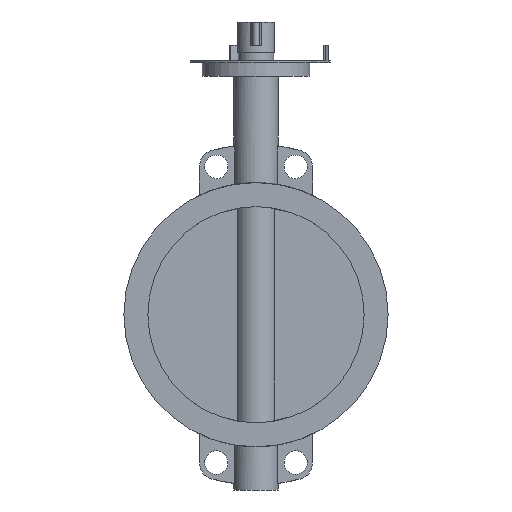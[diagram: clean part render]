
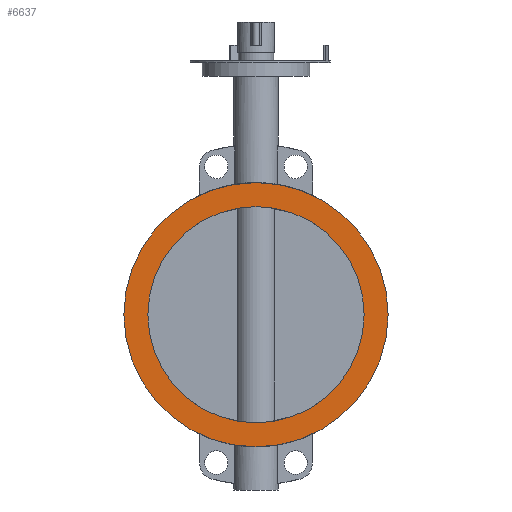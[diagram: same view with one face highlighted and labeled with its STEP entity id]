
A CAD part, left-side view. The second image highlights one B-rep face of the part: STEP entity #6637.
In plain terms, the highlighted planar face has unit normal (-1, 0, 0).
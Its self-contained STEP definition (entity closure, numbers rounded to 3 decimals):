
#6637=ADVANCED_FACE('',(#13295,#13297),#13299,.F.);
#13295=FACE_BOUND('',#13296,.T.);
#13296=EDGE_LOOP('',(#18731));
#13297=FACE_BOUND('',#13298,.T.);
#13298=EDGE_LOOP('',(#18732));
#13299=PLANE('',#13300);
#13300=AXIS2_PLACEMENT_3D('',#13301,#13302,#13303);
#13301=CARTESIAN_POINT('',(-34.,0.,0.));
#13302=DIRECTION('',(1.,0.,0.));
#13303=DIRECTION('',(0.,1.,0.));
#18731=ORIENTED_EDGE('',*,*,#21587,.F.);
#18732=ORIENTED_EDGE('',*,*,#21921,.T.);
#21587=EDGE_CURVE('',#25538,#25538,#25539,.T.);
#21921=EDGE_CURVE('',#26021,#26021,#26022,.T.);
#25538=VERTEX_POINT('',#34918);
#25539=CIRCLE('',#34919,153.);
#26021=VERTEX_POINT('',#36326);
#26022=CIRCLE('',#36327,125.2);
#34918=CARTESIAN_POINT('',(-34.,153.,0.));
#34919=AXIS2_PLACEMENT_3D('',#34920,#34921,#34922);
#34920=CARTESIAN_POINT('',(-34.,0.,0.));
#34921=DIRECTION('',(1.,0.,0.));
#34922=DIRECTION('',(0.,1.,0.));
#36326=CARTESIAN_POINT('',(-34.,125.2,0.));
#36327=AXIS2_PLACEMENT_3D('',#36328,#36329,#36330);
#36328=CARTESIAN_POINT('',(-34.,0.,0.));
#36329=DIRECTION('',(1.,0.,0.));
#36330=DIRECTION('',(0.,1.,0.));
